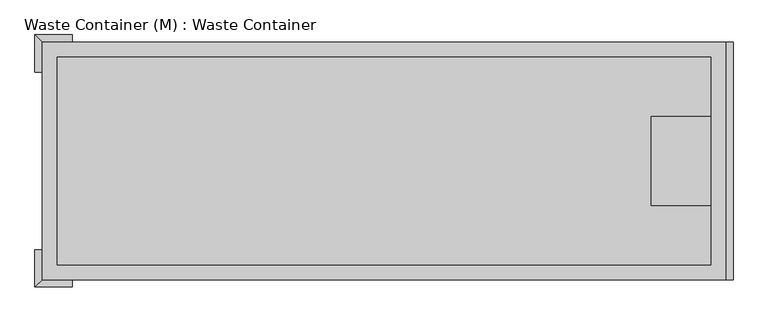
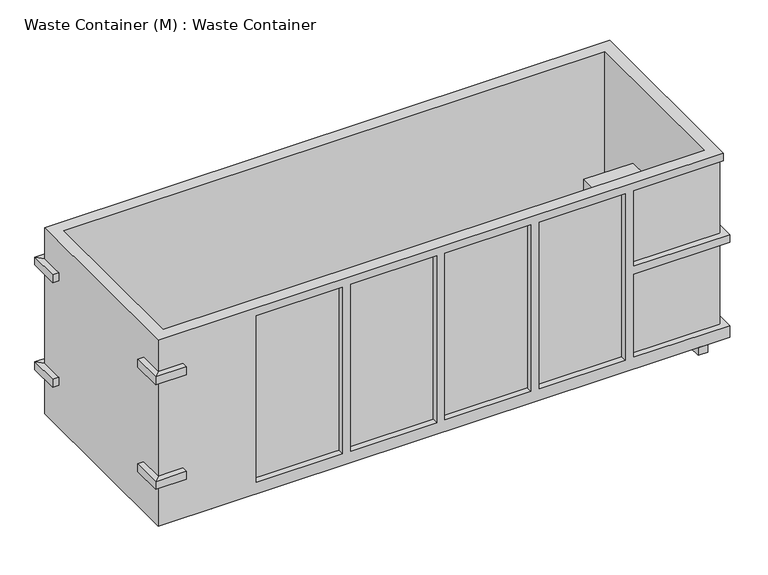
"""IFC4 building model written with IfcOpenShell, lengths in millimetres: geographic element geometry, Waste Container (M) : Waste Container."""

from ifc_helpers import new_model, si_unit, point, frame, frame_2d, origin, origin_with_axes, place, context, project, spatial, polyline, circle_curve, trimmed, segment, composite_curve, outline, extrude, faceted_brep, source, transform, mapped, element, save


def waste_container_m_waste_container_961c3538(model_context):
    return source(origin(), model_context, "Body", "SolidModel", [
        faceted_brep([(7086.6, 0.0, 101.6), (0.0, 0.0, 101.6), (0.0, 2438.4, 101.6), (7086.6, 2438.4, 101.6), (7086.6, 1524.0, 101.6), (6400.8, 1524.0, 101.6), (6400.8, 914.4, 101.6), (7086.6, 914.4, 101.6), (7086.6, 0.0, 254.0), (5892.8, 0.0, 254.0), (5892.8, 0.0, 1346.2), (7086.6, 0.0, 1346.2), (7086.6, 0.0, 1447.8), (5892.8, 0.0, 1447.8), (5892.8, 0.0, 2438.4), (7010.4, 0.0, 2438.4), (7010.4, 0.0, 2540.0), (0.0, 0.0, 2540.0), (5791.2, 0.0, 254.0), (4724.4, 0.0, 254.0), (4724.4, 0.0, 2438.4), (5791.2, 0.0, 2438.4), (4622.8, 0.0, 2438.4), (4622.8, 0.0, 254.0), (3556.0, 0.0, 254.0), (3556.0, 0.0, 2438.4), (3454.4, 0.0, 254.0), (2387.6, 0.0, 254.0), (2387.6, 0.0, 2438.4), (3454.4, 0.0, 2438.4), (2286.0, 0.0, 2438.4), (2286.0, 0.0, 254.0), (1219.2, 0.0, 254.0), (1219.2, 0.0, 2438.4), (0.0, 2438.4, 2540.0), (7010.4, 2438.4, 2540.0), (7010.4, 2438.4, 2438.4), (5892.8, 2438.4, 2438.4), (5892.8, 2438.4, 1447.8), (7086.6, 2438.4, 1447.8), (7086.6, 2438.4, 1346.2), (5892.8, 2438.4, 1346.2), (5892.8, 2438.4, 254.0), (7086.6, 2438.4, 254.0), (1219.2, 2438.4, 254.0), (2286.0, 2438.4, 254.0), (2286.0, 2438.4, 2438.4), (1219.2, 2438.4, 2438.4), (2387.6, 2438.4, 2438.4), (2387.6, 2438.4, 254.0), (3454.4, 2438.4, 254.0), (3454.4, 2438.4, 2438.4), (3556.0, 2438.4, 254.0), (4622.8, 2438.4, 254.0), (4622.8, 2438.4, 2438.4), (3556.0, 2438.4, 2438.4), (4724.4, 2438.4, 2438.4), (4724.4, 2438.4, 254.0), (5791.2, 2438.4, 254.0), (5791.2, 2438.4, 2438.4), (7086.6, 914.4, 1346.2), (7086.6, 1524.0, 1346.2), (7086.6, 1625.6, 254.0), (7086.6, 1625.6, 1346.2), (7086.6, 812.8, 1346.2), (7086.6, 812.8, 254.0), (6858.0, 1524.0, 1346.2), (6858.0, 1524.0, 254.0), (6400.8, 1524.0, 254.0), (6400.8, 914.4, 254.0), (6858.0, 914.4, 1346.2), (6858.0, 914.4, 254.0), (5892.8, 2362.2, 254.0), (7010.4, 2362.2, 254.0), (7010.4, 1625.6, 254.0), (7010.4, 1625.6, 1346.2), (7010.4, 812.8, 1346.2), (7010.4, 812.8, 254.0), (7010.4, 76.2, 254.0), (5892.8, 76.2, 254.0), (5892.8, 76.2, 1346.2), (2286.0, 76.2, 2438.4), (2286.0, 76.2, 254.0), (1219.2, 76.2, 254.0), (1219.2, 76.2, 2438.4), (3454.4, 76.2, 254.0), (2387.6, 76.2, 254.0), (2387.6, 76.2, 2438.4), (3454.4, 76.2, 2438.4), (4622.8, 76.2, 2438.4), (4622.8, 76.2, 254.0), (3556.0, 76.2, 254.0), (3556.0, 76.2, 2438.4), (5791.2, 76.2, 254.0), (4724.4, 76.2, 254.0), (4724.4, 76.2, 2438.4), (5791.2, 76.2, 2438.4), (5892.8, 2362.2, 1346.2), (1219.2, 2362.2, 254.0), (2286.0, 2362.2, 254.0), (2286.0, 2362.2, 2438.4), (1219.2, 2362.2, 2438.4), (2387.6, 2362.2, 2438.4), (2387.6, 2362.2, 254.0), (3454.4, 2362.2, 254.0), (3454.4, 2362.2, 2438.4), (3556.0, 2362.2, 254.0), (4622.8, 2362.2, 254.0), (4622.8, 2362.2, 2438.4), (3556.0, 2362.2, 2438.4), (4724.4, 2362.2, 2438.4), (4724.4, 2362.2, 254.0), (5791.2, 2362.2, 254.0), (5791.2, 2362.2, 2438.4), (6858.0, 2286.0, 254.0), (152.4, 2286.0, 254.0), (152.4, 152.4, 254.0), (6858.0, 152.4, 254.0), (6858.0, 2286.0, 2540.0), (152.4, 2286.0, 2540.0), (152.4, 152.4, 2540.0), (6858.0, 152.4, 2540.0), (7010.4, 2362.2, 1346.2), (5892.8, 2362.2, 1447.8), (5892.8, 2362.2, 2438.4), (7010.4, 2362.2, 2438.4), (7010.4, 2362.2, 1447.8), (7010.4, 76.2, 1346.2), (7010.4, 76.2, 2438.4), (7010.4, 76.2, 1447.8), (5892.8, 76.2, 1447.8), (5892.8, 76.2, 2438.4)], [[[0, 1, 2, 3, 4, 5, 6, 7]], [[1, 0, 8, 9, 10, 11, 12, 13, 14, 15, 16, 17], [18, 19, 20, 21], [22, 23, 24, 25], [26, 27, 28, 29], [30, 31, 32, 33]], [[2, 1, 17, 34]], [[3, 2, 34, 35, 36, 37, 38, 39, 40, 41, 42, 43], [44, 45, 46, 47], [48, 49, 50, 51], [52, 53, 54, 55], [56, 57, 58, 59]], [[0, 7, 60, 61, 4, 3, 43, 62, 63, 40, 39, 12, 11, 64, 65, 8]], [[61, 66, 67, 68, 5, 4]], [[5, 68, 69, 6]], [[70, 60, 7, 6, 69, 71]], [[72, 73, 74, 62, 43, 42]], [[74, 75, 63, 62]], [[76, 77, 65, 64]], [[65, 77, 78, 79, 9, 8]], [[79, 80, 10, 9]], [[81, 82, 31, 30]], [[82, 83, 32, 31]], [[83, 84, 33, 32]], [[85, 86, 27, 26]], [[86, 87, 28, 27]], [[88, 85, 26, 29]], [[89, 90, 23, 22]], [[90, 91, 24, 23]], [[91, 92, 25, 24]], [[93, 94, 19, 18]], [[94, 95, 20, 19]], [[96, 93, 18, 21]], [[97, 72, 42, 41]], [[98, 99, 45, 44]], [[99, 100, 46, 45]], [[101, 98, 44, 47]], [[102, 103, 49, 48]], [[103, 104, 50, 49]], [[104, 105, 51, 50]], [[106, 107, 53, 52]], [[107, 108, 54, 53]], [[109, 106, 52, 55]], [[110, 111, 57, 56]], [[111, 112, 58, 57]], [[112, 113, 59, 58]], [[114, 115, 116, 117, 71, 69, 68, 67]], [[115, 114, 118, 119]], [[116, 115, 119, 120]], [[117, 116, 120, 121]], [[117, 121, 118, 114, 67, 66, 70, 71]], [[73, 72, 97, 122]], [[99, 98, 101, 100]], [[103, 102, 105, 104]], [[107, 106, 109, 108]], [[111, 110, 113, 112]], [[123, 124, 125, 126]], [[75, 74, 73, 122]], [[77, 76, 127, 78]], [[35, 16, 15, 128, 129, 126, 125, 36]], [[82, 81, 84, 83]], [[86, 85, 88, 87]], [[90, 89, 92, 91]], [[94, 93, 96, 95]], [[130, 129, 128, 131]], [[127, 80, 79, 78]], [[34, 17, 16, 35], [118, 121, 120, 119]], [[130, 131, 14, 13]], [[131, 128, 15, 14]], [[84, 81, 30, 33]], [[87, 88, 29, 28]], [[92, 89, 22, 25]], [[95, 96, 21, 20]], [[125, 124, 37, 36]], [[124, 123, 38, 37]], [[100, 101, 47, 46]], [[105, 102, 48, 51]], [[108, 109, 55, 54]], [[113, 110, 56, 59]], [[66, 61, 60, 70]], [[122, 97, 41, 40, 63, 75]], [[123, 126, 129, 130, 13, 12, 39, 38]], [[76, 64, 11, 10, 80, 127]]]),
        faceted_brep([(6248.4, 1676.4, 254.0), (6858.0, 1676.4, 254.0), (6858.0, 1524.0, 254.0), (6400.8, 1524.0, 254.0), (6400.8, 914.4, 254.0), (6858.0, 914.4, 254.0), (6858.0, 762.0, 254.0), (6248.4, 762.0, 254.0), (6248.4, 1676.4, 1447.8), (6248.4, 762.0, 1447.8), (6858.0, 762.0, 1447.8), (6858.0, 1676.4, 1447.8), (6858.0, 914.4, 1346.2), (6858.0, 1524.0, 1346.2), (6400.8, 914.4, 1346.2), (6400.8, 1524.0, 1346.2)], [[[0, 1, 2, 3, 4, 5, 6, 7]], [[8, 9, 10, 11]], [[1, 0, 8, 11]], [[11, 10, 6, 5, 12, 13, 2, 1]], [[7, 6, 10, 9]], [[0, 7, 9, 8]], [[14, 15, 13, 12]], [[15, 14, 4, 3]], [[14, 12, 5, 4]], [[13, 15, 3, 2]]]),
        extrude(outline(polyline([(7010.4, 914.4), (7010.4, 1524.0), (7086.6, 1524.0), (7086.6, 914.4), (7010.4, 914.4)])), frame((0.0, 0.0, 889.0), z_axis=(0.0, 0.0, 1.0), x_axis=(1.0, 0.0, 0.0)), (0.0, 0.0, 1.0), 101.6),
        extrude(outline(composite_curve([segment(trimmed(circle_curve(frame_2d((138.6039197, 725.6616494)), 139.7), [point((102.4072456, 590.7324428))], [point((102.4072456, 860.5908559))], False, "CARTESIAN"), True, "CONTINUOUS"), segment(polyline([(102.4072456, 860.5908559), (102.4072456, 590.7324428)]), True, "CONTINUOUS")], self_intersect=False)), frame((0.0, 127.0, 0.0), z_axis=(0.0, 1.0, 0.0), x_axis=(0.0, 0.0, 1.0)), (0.0, 0.0, 1.0), 279.4),
        extrude(outline(composite_curve([segment(trimmed(circle_curve(frame_2d((138.6039197, 725.6616494)), 139.7), [point((102.4072456, 590.7324428))], [point((102.4072456, 860.5908559))], False, "CARTESIAN"), True, "CONTINUOUS"), segment(polyline([(102.4072456, 860.5908559), (102.4072456, 590.7324428)]), True, "CONTINUOUS")], self_intersect=False)), frame((0.0, 2032.0, 0.0), z_axis=(0.0, 1.0, 0.0), x_axis=(0.0, 0.0, 1.0)), (0.0, 0.0, 1.0), 279.4),
        extrude(outline(polyline([(6817.9853671, 0.0), (6696.5082831, 0.0), (6696.5082831, 152.4), (6817.9853671, 152.4), (6817.9853671, 0.0)])), origin_with_axes(), (0.0, 0.0, 1.0), 101.6),
        extrude(outline(polyline([(6696.5082831, 2438.4), (6817.9853671, 2438.4), (6817.9853671, 2286.0), (6696.5082831, 2286.0), (6696.5082831, 2438.4)])), origin_with_axes(), (0.0, 0.0, 1.0), 101.6),
        faceted_brep([(-76.2, 304.8, 660.4), (-76.2, 304.8, 762.0), (0.0, 304.8, 762.0), (0.0, 304.8, 660.4), (-76.2, -76.2, 660.4), (-76.2, -76.2, 762.0), (0.0, 0.0, 762.0), (0.0, 0.0, 660.4), (304.8, -76.2, 660.4), (304.8, -76.2, 762.0), (304.8, 0.0, 762.0), (304.8, 0.0, 660.4)], [[[0, 1, 2, 3]], [[1, 0, 4, 5]], [[2, 1, 5, 6]], [[3, 2, 6, 7]], [[0, 3, 7, 4]], [[5, 4, 8, 9]], [[6, 5, 9, 10]], [[7, 6, 10, 11]], [[4, 7, 11, 8]], [[8, 11, 10, 9]]]),
        faceted_brep([(-76.2, 304.8, 2133.6), (0.0, 304.8, 2133.6), (0.0, 304.8, 2032.0), (-76.2, 304.8, 2032.0), (304.8, -76.2, 2133.6), (304.8, -76.2, 2032.0), (304.8, 0.0, 2032.0), (304.8, 0.0, 2133.6), (-76.2, -76.2, 2133.6), (0.0, 0.0, 2133.6), (0.0, 0.0, 2032.0), (-76.2, -76.2, 2032.0)], [[[0, 1, 2, 3]], [[4, 5, 6, 7]], [[1, 0, 8, 9]], [[2, 1, 9, 10]], [[3, 2, 10, 11]], [[0, 3, 11, 8]], [[9, 8, 4, 7]], [[10, 9, 7, 6]], [[11, 10, 6, 5]], [[8, 11, 5, 4]]]),
        faceted_brep([(-76.2, 2133.6, 660.4), (0.0, 2133.6, 660.4), (0.0, 2133.6, 762.0), (-76.2, 2133.6, 762.0), (-76.2, 2514.6, 660.4), (0.0, 2438.4, 660.4), (0.0, 2438.4, 762.0), (-76.2, 2514.6, 762.0), (304.8, 2514.6, 660.4), (304.8, 2438.4, 660.4), (304.8, 2438.4, 762.0), (304.8, 2514.6, 762.0)], [[[0, 1, 2, 3]], [[1, 0, 4, 5]], [[2, 1, 5, 6]], [[3, 2, 6, 7]], [[0, 3, 7, 4]], [[5, 4, 8, 9]], [[6, 5, 9, 10]], [[7, 6, 10, 11]], [[4, 7, 11, 8]], [[8, 11, 10, 9]]]),
        faceted_brep([(-76.2, 2133.6, 2133.6), (-76.2, 2133.6, 2032.0), (0.0, 2133.6, 2032.0), (0.0, 2133.6, 2133.6), (304.8, 2514.6, 2133.6), (304.8, 2438.4, 2133.6), (304.8, 2438.4, 2032.0), (304.8, 2514.6, 2032.0), (-76.2, 2514.6, 2133.6), (-76.2, 2514.6, 2032.0), (0.0, 2438.4, 2032.0), (0.0, 2438.4, 2133.6)], [[[0, 1, 2, 3]], [[4, 5, 6, 7]], [[1, 0, 8, 9]], [[2, 1, 9, 10]], [[3, 2, 10, 11]], [[0, 3, 11, 8]], [[9, 8, 4, 7]], [[10, 9, 7, 6]], [[11, 10, 6, 5]], [[8, 11, 5, 4]]]),
    ])


if __name__ == "__main__":
    model = new_model("IFC4")
    model_context = context("Model", 3, world=origin())
    ifc_project = project(units=[si_unit("LENGTHUNIT", "METRE", prefix="MILLI")], contexts=[model_context])
    site = spatial("IfcSite", under=ifc_project)
    building = spatial("IfcBuilding", under=site)
    placement = place(None, origin())
    waste_container_m_waste_container_shape = waste_container_m_waste_container_961c3538(model_context)
    element("IfcGeographicElement", 1, ObjectType="Waste Container (M) : Waste Container", at=placement, inside=building, context=model_context, shape_type="MappedRepresentation", body=[
        mapped(waste_container_m_waste_container_shape, transform((0.0, 0.0, 0.0), x_axis=(1.0, 0.0, 0.0), y_axis=(0.0, 1.0, 0.0), z_axis=(0.0, 0.0, 1.0))),
    ])
    save(model, "model.ifc")
